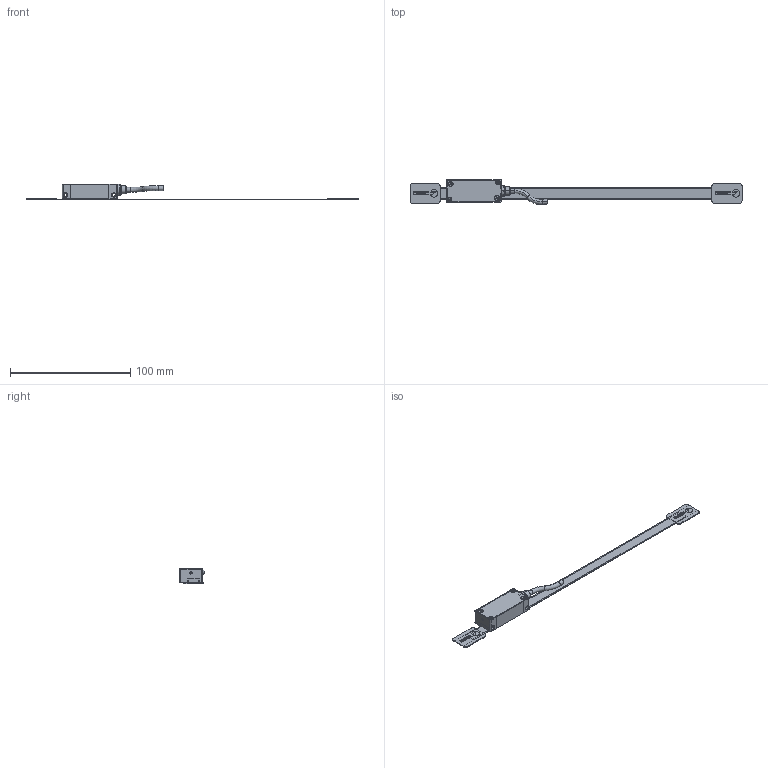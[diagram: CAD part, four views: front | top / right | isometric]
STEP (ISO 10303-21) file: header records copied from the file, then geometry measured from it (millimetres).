
FILE_DESCRIPTION(('Creo Elements/Direct Modeling STEP Export'),'2;1');
FILE_NAME('EXAA-170.stp','2017-01-11T16:33:12',(''),(''),'Creo Elements/Direct Modeling STEP processor for AP214 (Solid Model)','Creo Elements/Direct Modeling 18.1H 24-Oct-2015 (C) Parametric Technology GmbH','');
FILE_SCHEMA(('AUTOMOTIVE_DESIGN { 1 0 10303 214 1 1 1 1 }'));
Length unit declared in the file: millimetre
Products named in the file (7): CABEZA_EXPOSED; FLEJE_REGLA_EXPOSED_170; TOPE_FLEJE_PEGADO.1; TOPE_FLEJE_PEGADO
Assembly tree (4 placements, depth 2):
  CABEZA_EXPOSED
    CABEZA_EXPOSED
  FLEJE_REGLA_EXPOSED_170
    FLEJE_REGLA_EXPOSED_170
  TOPE_FLEJE_PEGADO
    TOPE_FLEJE_PEGADO.1
  TOPE_FLEJE_PEGADO.1
    TOPE_FLEJE_PEGADO.1
Bounding box: 276 x 20.7 x 13.1 mm (x, y, z)
Volume: 12131 mm3; surface area: 11807.2 mm2
Topology: 4 solids, 10 shells, 929 faces, 2589 edges, 1700 vertices
Faces by surface type: plane 741, cylinder 130, cone 46, torus 12
Entity records: 18785 total; most frequent: CARTESIAN_POINT 3390, ORIENTED_EDGE 3200, DIRECTION 2779, EDGE_CURVE 1600, VECTOR 1279, LINE 1279, VERTEX_POINT 1046, AXIS2_PLACEMENT_3D 750
